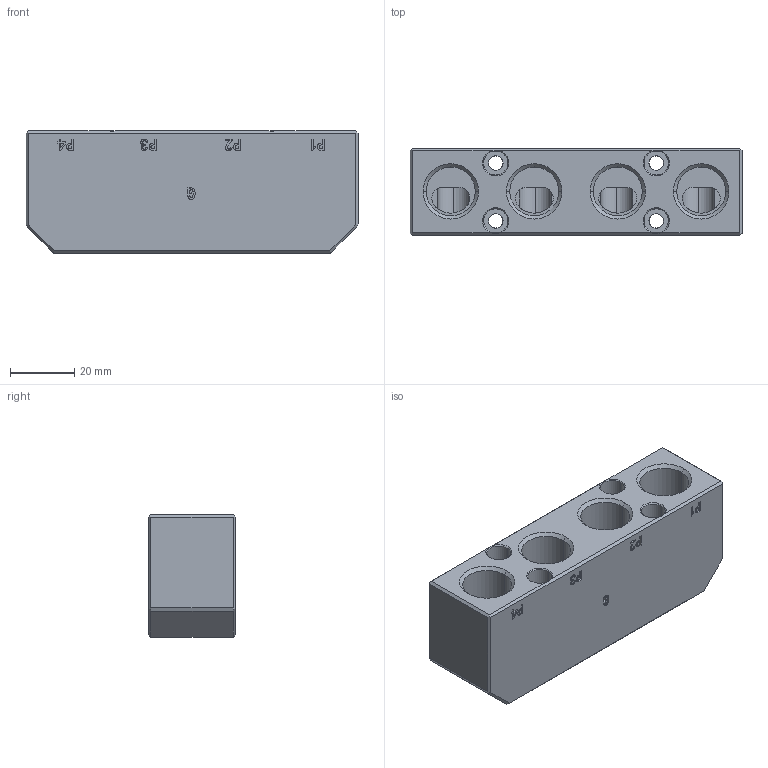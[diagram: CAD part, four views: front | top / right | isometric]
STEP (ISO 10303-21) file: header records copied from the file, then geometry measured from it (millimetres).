
FILE_DESCRIPTION (( 'STEP AP214' ), '1' );
FILE_NAME ('QCAM-04G38G-夹具侧自动快换气路扩展模块本体.STEP', '2022-08-19T08:51:40', ( '微软用户' ), ( '微软中国' ), 'SwSTEP 2.0', 'SolidWorks 2018', '' );
FILE_SCHEMA (( 'AUTOMOTIVE_DESIGN' ));
Length unit declared in the file: millimetre
Products named in the file (2): QCAM-04G38G-夹具侧自动快换气路扩展模块本体
Bounding box: 103.4 x 27 x 38.1 mm (x, y, z)
Volume: 71853.4 mm3; surface area: 24636.4 mm2
Topology: 1 solids, 1 shells, 290 faces, 738 edges, 466 vertices
Faces by surface type: plane 133, cylinder 68, cone 56, bspline 33
Entity records: 11683 total; most frequent: CARTESIAN_POINT 4775, ORIENTED_EDGE 1452, DIRECTION 1346, EDGE_CURVE 726, VERTEX_POINT 466, AXIS2_PLACEMENT_3D 451, LINE 444, VECTOR 444
